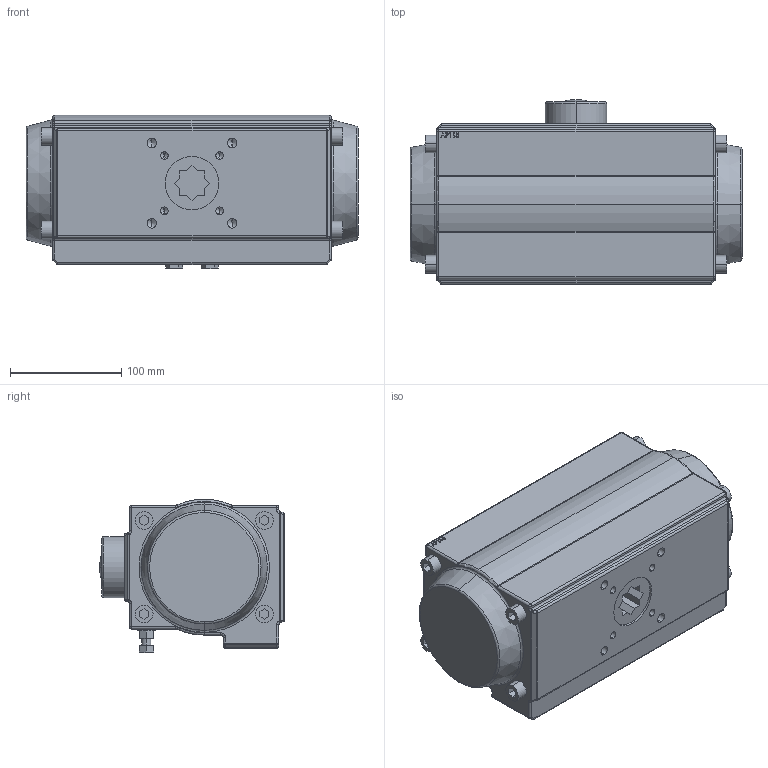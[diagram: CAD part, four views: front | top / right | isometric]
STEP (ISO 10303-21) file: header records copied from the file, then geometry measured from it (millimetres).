
FILE_DESCRIPTION (( 'STEP AP203' ), '1' );
FILE_NAME ('AP115.STEP', '2020-04-08T11:53:29', ( '' ), ( '' ), 'SwSTEP 2.0', 'SolidWorks 2017', '' );
FILE_SCHEMA (( 'CONFIG_CONTROL_DESIGN' ));
Length unit declared in the file: millimetre
Products named in the file (1): AP115
Bounding box: 298 x 166 x 137.84 mm (x, y, z)
Volume: 4708196.5 mm3; surface area: 195556 mm2
Topology: 1 solids, 1 shells, 497 faces, 1176 edges, 691 vertices
Faces by surface type: plane 210, cylinder 126, cone 68, sphere 32, bspline 31, torus 30
Entity records: 15325 total; most frequent: CARTESIAN_POINT 4178, DIRECTION 2304, ORIENTED_EDGE 2252, EDGE_CURVE 1126, AXIS2_PLACEMENT_3D 821, VERTEX_POINT 691, VECTOR 662, LINE 662
